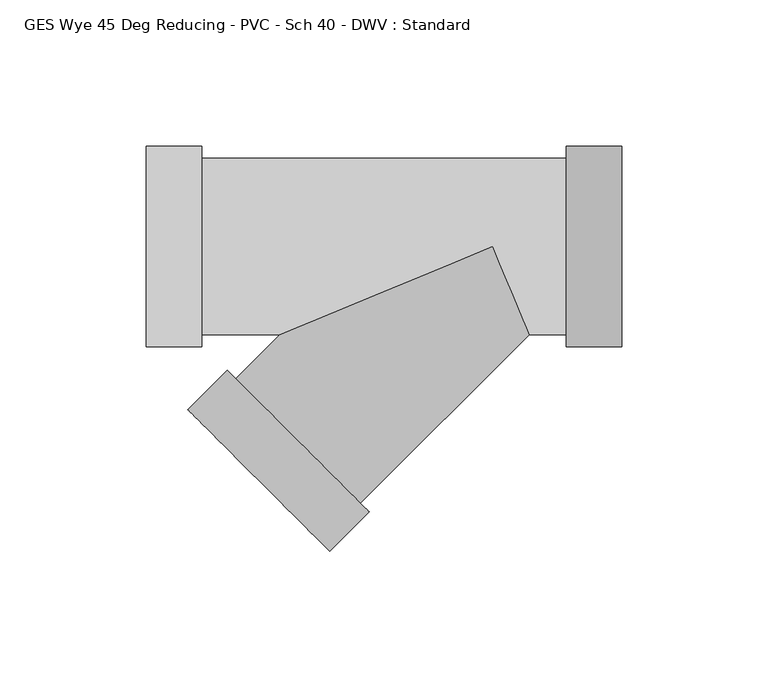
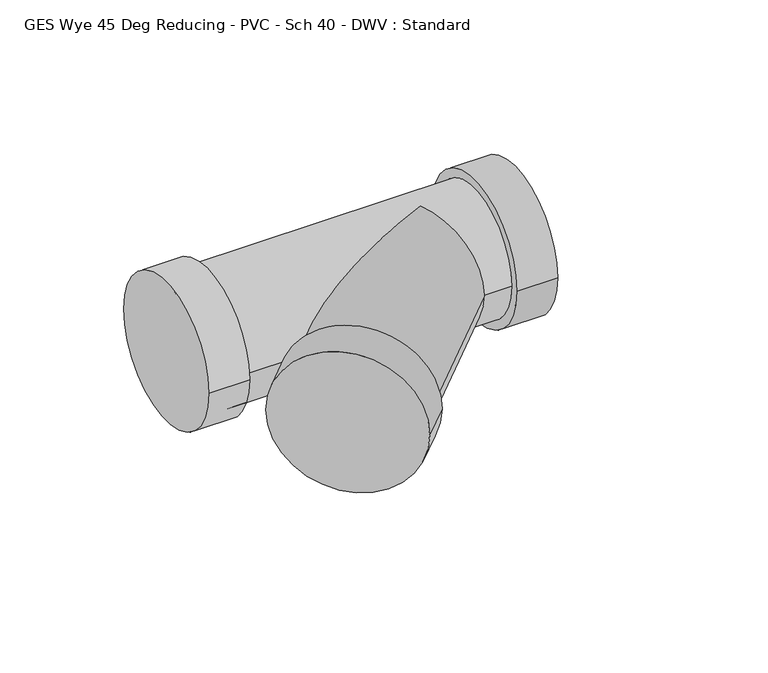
"""IFC4 building model written with IfcOpenShell, lengths in millimetres: pipe fitting geometry, GES Wye 45 Deg Reducing - PVC - Sch 40 - DWV : Standard."""

from ifc_helpers import new_model, si_unit, frame, origin, place, context, project, spatial, circle_curve, ellipse_curve, source, transform, mapped, element, save
from ifc_brep_helpers import plane_surface, cylinder_surface, advanced_brep


def ges_wye_45_deg_reducing_pvc_sch_40_dwv_standard_30377c25(model_context):
    return source(origin(), model_context, "Body", "AdvancedBrep", [
        advanced_brep(
        [(-99.5759375, 34.3154, 0.0), (-99.5759375, -34.3154, 0.0), (-99.5759375, 30.1625, 0.0), (-99.5759375, -30.1625, 0.0), (-118.6259375, 34.3154, 0.0), (-118.6259375, -34.3154, 0.0), (25.1182188, -34.3154, 0.0), (25.1182188, 34.3154, 0.0), (25.1182188, -30.1625, 0.0), (25.1182188, 30.1625, 0.0), (44.1682188, -34.3154, 0.0), (44.1682188, 34.3154, 0.0), (12.4937188, -30.1625, 0.0), (0.0, 0.0, -30.1625), (-72.8187038, -30.1625, 0.0), (0.0, 0.0, 30.1625), (-87.9363461, -45.2801461, 0.0), (-45.2801242, -87.9363574, 0.0), (-90.8728902, -42.3436027, 0.0), (-42.3435801, -90.8729007, 0.0), (-104.3432727, -55.8139885, 0.0), (-55.8139626, -104.3432866, 0.0)],
        [
            (0, 1, circle_curve(frame((-99.5759375, 0.0, 0.0), z_axis=(1.0, 0.0, 0.0), x_axis=(0.0, -1.0, 0.0)), 34.3154)),
            (1, 0, circle_curve(frame((-99.5759375, 0.0, 0.0), z_axis=(1.0, 0.0, 0.0), x_axis=(0.0, -1.0, 0.0)), 34.3154)),
            (2, 3, circle_curve(frame((-99.5759375, 0.0, 0.0), z_axis=(-1.0, 0.0, 0.0), x_axis=(0.0, 0.0, -1.0)), 30.1625)),
            (3, 2, circle_curve(frame((-99.5759375, 0.0, 0.0), z_axis=(-1.0, 0.0, 0.0), x_axis=(0.0, 0.0, 1.0)), 30.1625)),
            (4, 5, circle_curve(frame((-118.6259375, 0.0, 0.0), z_axis=(-1.0, 0.0, 0.0), x_axis=(0.0, -1.0, 0.0)), 34.3154)),
            (5, 4, circle_curve(frame((-118.6259375, 0.0, 0.0), z_axis=(-1.0, 0.0, 0.0), x_axis=(0.0, -1.0, 0.0)), 34.3154)),
            (0, 4),
            (5, 1),
            (6, 7, circle_curve(frame((25.1182188, 0.0, 0.0), z_axis=(-1.0, 0.0, 0.0), x_axis=(0.0, 1.0, 0.0)), 34.3154)),
            (7, 6, circle_curve(frame((25.1182188, 0.0, 0.0), z_axis=(-1.0, 0.0, 0.0), x_axis=(0.0, 1.0, 0.0)), 34.3154)),
            (8, 9, circle_curve(frame((25.1182188, 0.0, 0.0), z_axis=(1.0, 0.0, 0.0), x_axis=(0.0, 0.0, -1.0)), 30.1625)),
            (9, 8, circle_curve(frame((25.1182188, 0.0, 0.0), z_axis=(1.0, 0.0, 0.0), x_axis=(0.0, 0.0, 1.0)), 30.1625)),
            (10, 11, circle_curve(frame((44.1682188, 0.0, 0.0), z_axis=(1.0, 0.0, 0.0), x_axis=(0.0, 1.0, 0.0)), 34.3154)),
            (11, 10, circle_curve(frame((44.1682188, 0.0, 0.0), z_axis=(1.0, 0.0, 0.0), x_axis=(0.0, 1.0, 0.0)), 34.3154)),
            (6, 10),
            (11, 7),
            (2, 9),
            (8, 12),
            (12, 13, ellipse_curve(frame((0.0, 0.0, 0.0), z_axis=(0.9238795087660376, 0.382683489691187, 0.0), x_axis=(0.3826834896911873, -0.9238795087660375, 0.0)), 32.6476556, 30.1625)),
            (13, 14, ellipse_curve(frame((0.0, 0.0, 0.0), z_axis=(-0.3826834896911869, 0.9238795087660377, 0.0), x_axis=(0.9238795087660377, 0.3826834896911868, 0.0)), 78.818399, 30.1625)),
            (14, 3),
            (14, 15, ellipse_curve(frame((0.0, 0.0, 0.0), z_axis=(-0.3826834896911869, 0.9238795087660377, 0.0), x_axis=(0.9238795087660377, 0.3826834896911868, 0.0)), 78.818399, 30.1625)),
            (15, 12, ellipse_curve(frame((0.0, 0.0, 0.0), z_axis=(0.9238795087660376, 0.382683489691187, 0.0), x_axis=(0.3826834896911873, -0.9238795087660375, 0.0)), 32.6476556, 30.1625)),
            (14, 16),
            (16, 17, circle_curve(frame((-66.6082352, -66.6082517, 0.0), z_axis=(0.7071066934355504, 0.7071068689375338, 0.0), x_axis=(0.7071068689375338, -0.7071066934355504, 0.0)), 30.1625)),
            (17, 12),
            (17, 16, circle_curve(frame((-66.6082352, -66.6082517, 0.0), z_axis=(0.7071066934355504, 0.7071068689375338, 0.0), x_axis=(0.7071068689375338, -0.7071066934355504, 0.0)), 30.1625)),
            (18, 19, circle_curve(frame((-66.6082352, -66.6082517, 0.0), z_axis=(0.7071066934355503, 0.7071068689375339, 0.0), x_axis=(0.7071068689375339, -0.7071066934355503, 0.0)), 34.3154)),
            (19, 18, circle_curve(frame((-66.6082352, -66.6082517, 0.0), z_axis=(0.7071066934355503, 0.7071068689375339, 0.0), x_axis=(0.7071068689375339, -0.7071066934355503, 0.0)), 34.3154)),
            (20, 21, circle_curve(frame((-80.0786177, -80.0786376, 0.0), z_axis=(-0.7071066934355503, -0.7071068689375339, 0.0), x_axis=(0.7071068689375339, -0.7071066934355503, 0.0)), 34.3154)),
            (21, 20, circle_curve(frame((-80.0786177, -80.0786376, 0.0), z_axis=(-0.7071066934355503, -0.7071068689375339, 0.0), x_axis=(0.7071068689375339, -0.7071066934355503, 0.0)), 34.3154)),
            (18, 20),
            (21, 19),
        ],
        [
            plane_surface(frame((-99.5759375, 0.0, 0.0), z_axis=(1.0, 0.0, 0.0), x_axis=(0.0, 0.0, 1.0))),
            plane_surface(frame((-118.6259375, 0.0, 0.0), z_axis=(-1.0, 0.0, 0.0), x_axis=(0.0, 0.0, 1.0))),
            cylinder_surface(frame((-99.5759375, 0.0, 0.0), z_axis=(1.0, 0.0, 0.0), x_axis=(0.0, -1.0, 0.0)), 34.3154),
            plane_surface(frame((25.1182188, 0.0, 0.0), z_axis=(-1.0, 0.0, 0.0), x_axis=(0.0, 0.0, 1.0))),
            plane_surface(frame((44.1682188, 0.0, 0.0), z_axis=(1.0, 0.0, 0.0), x_axis=(0.0, 0.0, 1.0))),
            cylinder_surface(frame((25.1182188, 0.0, 0.0), z_axis=(-1.0, 0.0, 0.0), x_axis=(0.0, 1.0, 0.0)), 34.3154),
            cylinder_surface(frame((-99.5759375, 0.0, 0.0), z_axis=(1.0, 0.0, 0.0), x_axis=(0.0, 0.0, -1.0)), 30.1625),
            cylinder_surface(frame((-99.5759375, 0.0, 0.0), z_axis=(1.0, 0.0, 0.0), x_axis=(0.0, 0.0, 1.0)), 30.1625),
            cylinder_surface(frame((0.0, 0.0, 0.0), z_axis=(0.7071066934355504, 0.7071068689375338, 0.0), x_axis=(0.7071068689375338, -0.7071066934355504, 0.0)), 30.1625),
            plane_surface(frame((-66.6082352, -66.6082517, 0.0), z_axis=(0.7071066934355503, 0.7071068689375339, 0.0), x_axis=(0.0, 0.0, 1.0))),
            plane_surface(frame((-80.0786177, -80.0786376, 0.0), z_axis=(-0.7071066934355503, -0.7071068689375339, 0.0), x_axis=(0.0, 0.0, 1.0))),
            cylinder_surface(frame((-66.6082352, -66.6082517, 0.0), z_axis=(0.7071066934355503, 0.7071068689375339, 0.0), x_axis=(0.7071068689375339, -0.7071066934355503, 0.0)), 34.3154),
        ],
        [
            (0, [[1, 2], [3, 4]]),
            (1, [[5, 6]]),
            (2, [[-1, 7, -6, 8]]),
            (2, [[-2, -8, -5, -7]]),
            (3, [[9, 10], [11, 12]]),
            (4, [[13, 14]]),
            (5, [[-9, 15, -14, 16]]),
            (5, [[-10, -16, -13, -15]]),
            (6, [[17, -11, 18, 19, 20, 21, -3]]),
            (7, [[-17, -4, -21, 22, 23, -18, -12]]),
            (8, [[24, 25, 26, -23, -22]]),
            (8, [[-24, -20, -19, -26, 27]]),
            (9, [[28, 29], [-25, -27]]),
            (10, [[30, 31]]),
            (11, [[-28, 32, -31, 33]]),
            (11, [[-29, -33, -30, -32]]),
        ],
    ),
    ])


if __name__ == "__main__":
    model = new_model("IFC4")
    model_context = context("Model", 3, world=origin())
    ifc_project = project(units=[si_unit("LENGTHUNIT", "METRE", prefix="MILLI")], contexts=[model_context])
    site = spatial("IfcSite", under=ifc_project)
    building = spatial("IfcBuilding", under=site)
    placement = place(None, origin())
    ges_wye_45_deg_reducing_pvc_sch_40_dwv_standard_shape = ges_wye_45_deg_reducing_pvc_sch_40_dwv_standard_30377c25(model_context)
    element("IfcPipeFitting", 1, ObjectType="GES Wye 45 Deg Reducing - PVC - Sch 40 - DWV : Standard", at=placement, inside=building, context=model_context, shape_type="MappedRepresentation", body=[
        mapped(ges_wye_45_deg_reducing_pvc_sch_40_dwv_standard_shape, transform((0.0, 0.0, 0.0), x_axis=(1.0, 0.0, 0.0), y_axis=(0.0, 1.0, 0.0), z_axis=(0.0, 0.0, 1.0))),
    ])
    save(model, "model.ifc")
